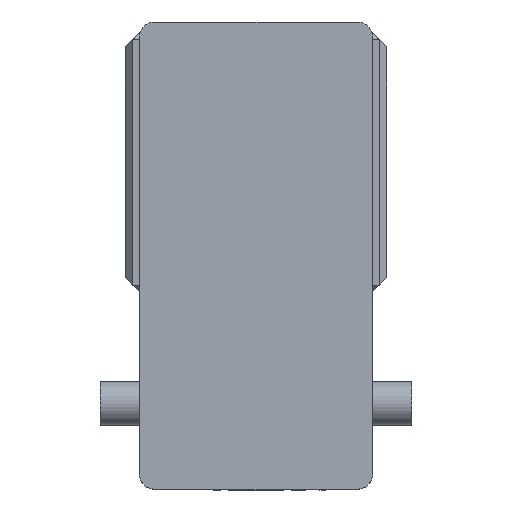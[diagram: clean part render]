
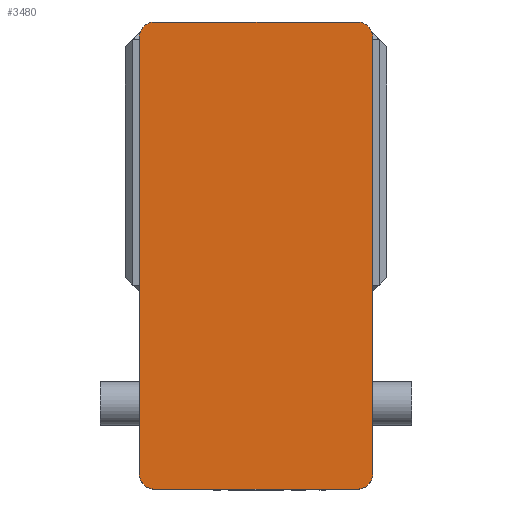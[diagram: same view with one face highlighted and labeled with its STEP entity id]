
A CAD part, left-side view. The second image highlights one B-rep face of the part: STEP entity #3480.
In plain terms, the highlighted planar face has unit normal (-1, 0, 0) as drawn and (0, 0, 1) by its records, which use the part's own axes.
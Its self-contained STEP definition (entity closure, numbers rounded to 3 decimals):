
#106 = VERTEX_POINT ( 'NONE', #9204 ) ;
#117 = AXIS2_PLACEMENT_3D ( 'NONE', #1658, #1559, #1604 ) ;
#134 = VERTEX_POINT ( 'NONE', #9714 ) ;
#270 = ORIENTED_EDGE ( 'NONE', *, *, #3505, .T. ) ;
#480 = ORIENTED_EDGE ( 'NONE', *, *, #9032, .T. ) ;
#660 = ORIENTED_EDGE ( 'NONE', *, *, #4147, .T. ) ;
#867 = ORIENTED_EDGE ( 'NONE', *, *, #4765, .T. ) ;
#1018 = CARTESIAN_POINT ( 'NONE',  ( -75., -150., 105. ) ) ;
#1036 = ORIENTED_EDGE ( 'NONE', *, *, #4261, .T. ) ;
#1146 = ORIENTED_EDGE ( 'NONE', *, *, #4768, .T. ) ;
#1151 = DIRECTION ( 'NONE',  ( 1., 0., 0. ) ) ;
#1279 = ORIENTED_EDGE ( 'NONE', *, *, #3262, .T. ) ;
#1410 = ORIENTED_EDGE ( 'NONE', *, *, #4782, .T. ) ;
#1559 = DIRECTION ( 'NONE',  ( 0., 0., 1. ) ) ;
#1604 = DIRECTION ( 'NONE',  ( 1., 0., 0. ) ) ;
#1658 = CARTESIAN_POINT ( 'NONE',  ( 0., 0., 105. ) ) ;
#1922 = DIRECTION ( 'NONE',  ( 1., 0., 0. ) ) ;
#1938 = DIRECTION ( 'NONE',  ( 0., 0., 1. ) ) ;
#1943 = CARTESIAN_POINT ( 'NONE',  ( -65., -140., 105. ) ) ;
#2001 = DIRECTION ( 'NONE',  ( 1., 0., 0. ) ) ;
#2040 = DIRECTION ( 'NONE',  ( 0., 0., 1. ) ) ;
#2053 = CARTESIAN_POINT ( 'NONE',  ( -65., 140., 105. ) ) ;
#2062 = PLANE ( 'NONE',  #117 ) ;
#2098 = DIRECTION ( 'NONE',  ( 1., 0., 0. ) ) ;
#2135 = DIRECTION ( 'NONE',  ( 0., 0., 1. ) ) ;
#2136 = CARTESIAN_POINT ( 'NONE',  ( 65., 140., 105. ) ) ;
#2845 = CARTESIAN_POINT ( 'NONE',  ( -75., 140., 105. ) ) ;
#3139 = CIRCLE ( 'NONE', #3973, 10. ) ;
#3195 = CIRCLE ( 'NONE', #8640, 10. ) ;
#3222 = CIRCLE ( 'NONE', #4294, 10. ) ;
#3262 = EDGE_CURVE ( 'NONE', #10766, #10891, #5773, .T. ) ;
#3480 = ADVANCED_FACE ( 'NONE', ( #5294 ), #2062, .T. ) ;
#3505 = EDGE_CURVE ( 'NONE', #106, #134, #5288, .T. ) ;
#3973 = AXIS2_PLACEMENT_3D ( 'NONE', #2136, #2135, #2098 ) ;
#4028 = VECTOR ( 'NONE', #5438, 1000. ) ;
#4062 = LINE ( 'NONE', #5389, #4028 ) ;
#4147 = EDGE_CURVE ( 'NONE', #10450, #11205, #4268, .T. ) ;
#4261 = EDGE_CURVE ( 'NONE', #10886, #10875, #4062, .T. ) ;
#4268 = LINE ( 'NONE', #6078, #4416 ) ;
#4294 = AXIS2_PLACEMENT_3D ( 'NONE', #1943, #1938, #1922 ) ;
#4373 = CARTESIAN_POINT ( 'NONE',  ( 75., -140., 105. ) ) ;
#4416 = VECTOR ( 'NONE', #6062, 1000. ) ;
#4765 = EDGE_CURVE ( 'NONE', #11205, #10886, #3139, .T. ) ;
#4768 = EDGE_CURVE ( 'NONE', #10875, #10766, #3195, .T. ) ;
#4782 = EDGE_CURVE ( 'NONE', #10891, #106, #3222, .T. ) ;
#5257 = VECTOR ( 'NONE', #1151, 1000. ) ;
#5288 = LINE ( 'NONE', #1018, #5257 ) ;
#5294 = FACE_OUTER_BOUND ( 'NONE', #6975, .T. ) ;
#5389 = CARTESIAN_POINT ( 'NONE',  ( -75., 150., 105. ) ) ;
#5438 = DIRECTION ( 'NONE',  ( -1., 0., 0. ) ) ;
#5693 = VECTOR ( 'NONE', #6176, 1000. ) ;
#5773 = LINE ( 'NONE', #5904, #5693 ) ;
#5904 = CARTESIAN_POINT ( 'NONE',  ( -75., 150., 105. ) ) ;
#6062 = DIRECTION ( 'NONE',  ( 0., 1., 0. ) ) ;
#6078 = CARTESIAN_POINT ( 'NONE',  ( 75., 150., 105. ) ) ;
#6176 = DIRECTION ( 'NONE',  ( 0., -1., 0. ) ) ;
#6562 = AXIS2_PLACEMENT_3D ( 'NONE', #6807, #6710, #6725 ) ;
#6710 = DIRECTION ( 'NONE',  ( 0., 0., 1. ) ) ;
#6725 = DIRECTION ( 'NONE',  ( 1., 0., 0. ) ) ;
#6807 = CARTESIAN_POINT ( 'NONE',  ( 65., -140., 105. ) ) ;
#6975 = EDGE_LOOP ( 'NONE', ( #270, #480, #660, #867, #1036, #1146, #1279, #1410 ) ) ;
#7322 = CARTESIAN_POINT ( 'NONE',  ( 75., 140., 105. ) ) ;
#8640 = AXIS2_PLACEMENT_3D ( 'NONE', #2053, #2040, #2001 ) ;
#8886 = CIRCLE ( 'NONE', #6562, 10. ) ;
#9032 = EDGE_CURVE ( 'NONE', #134, #10450, #8886, .T. ) ;
#9204 = CARTESIAN_POINT ( 'NONE',  ( -65., -150., 105. ) ) ;
#9714 = CARTESIAN_POINT ( 'NONE',  ( 65., -150., 105. ) ) ;
#10450 = VERTEX_POINT ( 'NONE', #4373 ) ;
#10506 = CARTESIAN_POINT ( 'NONE',  ( -75., -140., 105. ) ) ;
#10516 = CARTESIAN_POINT ( 'NONE',  ( 65., 150., 105. ) ) ;
#10766 = VERTEX_POINT ( 'NONE', #2845 ) ;
#10875 = VERTEX_POINT ( 'NONE', #11031 ) ;
#10886 = VERTEX_POINT ( 'NONE', #10516 ) ;
#10891 = VERTEX_POINT ( 'NONE', #10506 ) ;
#11031 = CARTESIAN_POINT ( 'NONE',  ( -65., 150., 105. ) ) ;
#11205 = VERTEX_POINT ( 'NONE', #7322 ) ;
